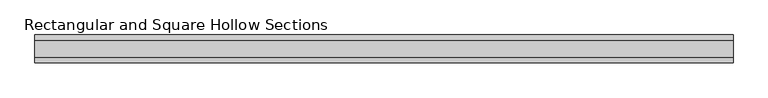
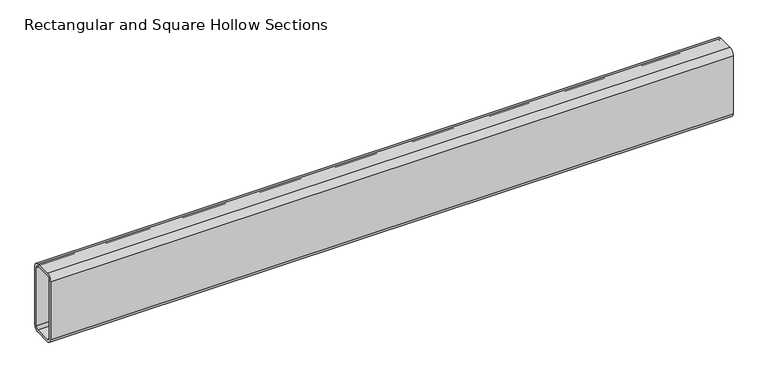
"""IFC4 building model written with IfcOpenShell, lengths in millimetres: beam geometry, Rectangular and Square Hollow Sections : TREC160x60x6."""

from ifc_helpers import new_model, si_unit, point, frame, frame_2d, origin, place, context, project, spatial, polyline, circle_curve, trimmed, segment, composite_curve, outline, extrude, source, transform, mapped, element, save


def rectangular_and_square_hollow_sections_a873ca0a(model_context):
    return source(origin(), model_context, "Body", "SweptSolid", [
        extrude(outline(composite_curve([segment(polyline([(30.0, 68.0), (30.0, -68.0)]), True, "CONTINUOUS"), segment(trimmed(circle_curve(frame_2d((18.0, -68.0)), 12.0), [point((30.0, -68.0))], [point((18.0, -80.0))], False, "CARTESIAN"), True, "CONTINUOUS"), segment(polyline([(18.0, -80.0), (-18.0, -80.0)]), True, "CONTINUOUS"), segment(trimmed(circle_curve(frame_2d((-18.0, -68.0)), 12.0), [point((-18.0, -80.0))], [point((-30.0, -68.0))], False, "CARTESIAN"), True, "CONTINUOUS"), segment(polyline([(-30.0, -68.0), (-30.0, 68.0)]), True, "CONTINUOUS"), segment(trimmed(circle_curve(frame_2d((-18.0, 68.0)), 12.0), [point((-30.0, 68.0))], [point((-18.0, 80.0))], False, "CARTESIAN"), True, "CONTINUOUS"), segment(polyline([(-18.0, 80.0), (18.0, 80.0)]), True, "CONTINUOUS"), segment(trimmed(circle_curve(frame_2d((18.0, 68.0)), 12.0), [point((18.0, 80.0))], [point((30.0, 68.0))], False, "CARTESIAN"), True, "CONTINUOUS")], self_intersect=False), holes=[composite_curve([segment(trimmed(circle_curve(frame_2d((-18.0, 68.0)), 6.0), [point((-18.0, 74.0))], [point((-24.0, 68.0))], True, "CARTESIAN"), True, "CONTINUOUS"), segment(polyline([(-24.0, 68.0), (-24.0, -68.0)]), True, "CONTINUOUS"), segment(trimmed(circle_curve(frame_2d((-18.0, -68.0)), 6.0), [point((-24.0, -68.0))], [point((-18.0, -74.0))], True, "CARTESIAN"), True, "CONTINUOUS"), segment(polyline([(-18.0, -74.0), (18.0, -74.0)]), True, "CONTINUOUS"), segment(trimmed(circle_curve(frame_2d((18.0, -68.0)), 6.0), [point((18.0, -74.0))], [point((24.0, -68.0))], True, "CARTESIAN"), True, "CONTINUOUS"), segment(polyline([(24.0, -68.0), (24.0, 68.0)]), True, "CONTINUOUS"), segment(trimmed(circle_curve(frame_2d((18.0, 68.0)), 6.0), [point((24.0, 68.0))], [point((18.0, 74.0))], True, "CARTESIAN"), True, "CONTINUOUS"), segment(polyline([(18.0, 74.0), (-18.0, 74.0)]), True, "CONTINUOUS")], self_intersect=False)]), frame((-757.0, 0.0, 0.0), z_axis=(1.0, 0.0, 0.0), x_axis=(0.0, 1.0, 0.0)), (0.0, 0.0, 1.0), 1514.0),
    ])


if __name__ == "__main__":
    model = new_model("IFC4")
    model_context = context("Model", 3, world=origin())
    ifc_project = project(units=[si_unit("LENGTHUNIT", "METRE", prefix="MILLI")], contexts=[model_context])
    site = spatial("IfcSite", under=ifc_project)
    building = spatial("IfcBuilding", under=site)
    placement = place(None, origin())
    rectangular_and_square_hollow_sections_shape = rectangular_and_square_hollow_sections_a873ca0a(model_context)
    element("IfcBeam", 1, ObjectType="Rectangular and Square Hollow Sections : TREC160x60x6", at=placement, inside=building, context=model_context, shape_type="MappedRepresentation", body=[
        mapped(rectangular_and_square_hollow_sections_shape, transform((0.0, 0.0, 0.0), x_axis=(1.0, 0.0, 0.0), y_axis=(0.0, 1.0, 0.0), z_axis=(0.0, 0.0, 1.0))),
    ])
    save(model, "model.ifc")
